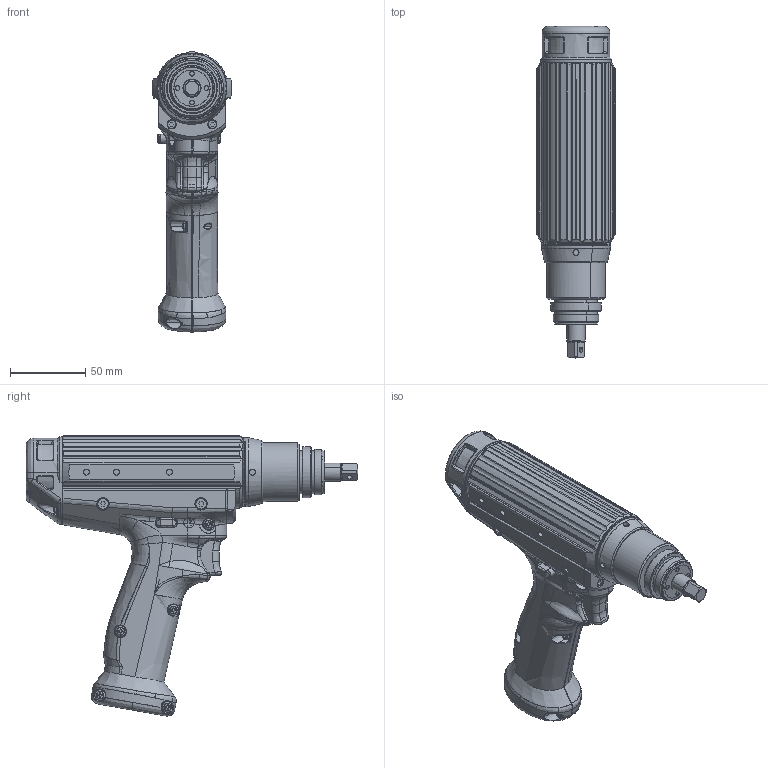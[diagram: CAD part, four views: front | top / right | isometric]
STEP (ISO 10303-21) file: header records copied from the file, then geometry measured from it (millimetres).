
FILE_DESCRIPTION(('STEP AP203'),'2;1');
FILE_NAME('EH2-R1016-PH.stp','2009-03-18T08:52:35',(''),(''),'2008.1.107','THINKDESIGN','');
FILE_SCHEMA(('CONFIG_CONTROL_DESIGN'));
Bounding box: 52 x 220 x 185.7 mm (x, y, z)
Surface area: 94445.6 mm2 (no closed solid volume)
Topology: 0 solids, 0 shells, 1381 faces, 8772 edges, 8646 vertices
Faces by surface type: bspline 1073, plane 308
Entity records: 110094 total; most frequent: CARTESIAN_POINT 84505, COMPOSITE_CURVE_SEGMENT 8641, B_SPLINE_CURVE_WITH_KNOTS 4834, DIRECTION 2356, VECTOR 1742, LINE 1742, TRIMMED_CURVE 1742, OUTER_BOUNDARY_CURVE 1376
